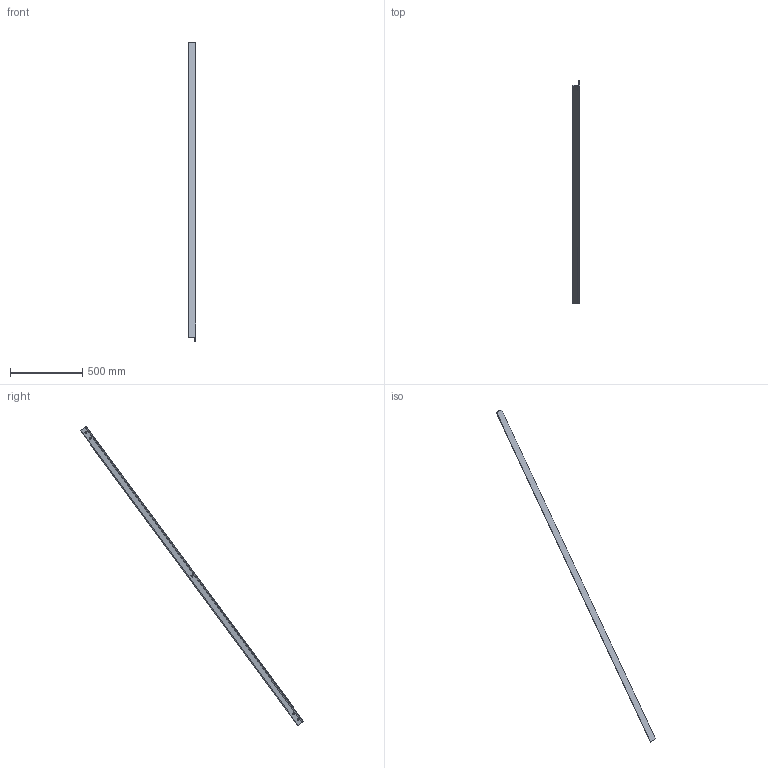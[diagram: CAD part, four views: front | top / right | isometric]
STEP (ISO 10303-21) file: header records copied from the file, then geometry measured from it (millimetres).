
FILE_DESCRIPTION (( 'STEP AP214' ), '1' );
FILE_NAME ('CCJ029-REP.052 - CONTREVENTEMENT B1-C1.STEP', '2024-01-10T14:42:19', ( '' ), ( '' ), 'SwSTEP 2.0', 'SolidWorks 2021', '' );
FILE_SCHEMA (( 'AUTOMOTIVE_DESIGN' ));
Length unit declared in the file: millimetre
Products named in the file (1): CCJ029-REP.052 - CONTREVENTEMENT B1-C1
Bounding box: 50 x 1540.22 x 2062.21 mm (x, y, z)
Volume: 1209323.4 mm3; surface area: 490558.8 mm2
Topology: 1 solids, 1 shells, 21 faces, 57 edges, 38 vertices
Faces by surface type: cylinder 13, plane 8
Entity records: 731 total; most frequent: DIRECTION 127, CARTESIAN_POINT 117, ORIENTED_EDGE 114, EDGE_CURVE 57, AXIS2_PLACEMENT_3D 48, VERTEX_POINT 38, VECTOR 31, LINE 31
